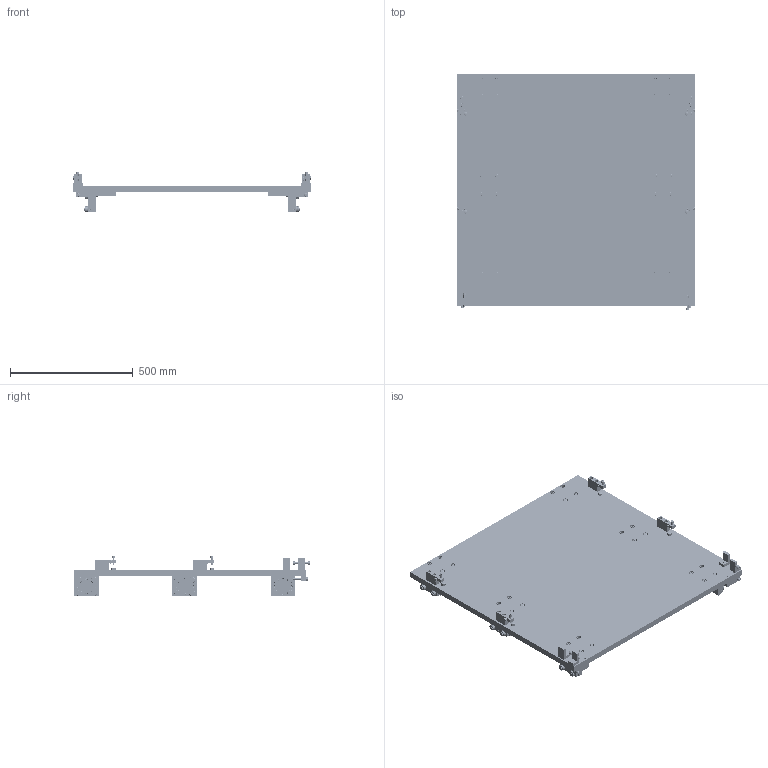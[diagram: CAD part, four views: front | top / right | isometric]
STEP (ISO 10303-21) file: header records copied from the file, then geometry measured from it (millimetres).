
FILE_DESCRIPTION(/* description */ (''),/* implementation_level */ '2;1');
FILE_NAME(/* name */ '2002_Trolley_v5.stp',/* time_stamp */ '2020-08-05T18:11:50+02:00',/* author */ (''),/* organization */ (''),/* preprocessor_version */ 'ST-DEVELOPER v16.7',/* originating_system */ 'SIEMENS PLM Software NX 1892',/* authorisation */ '');
FILE_SCHEMA (('AUTOMOTIVE_DESIGN { 1 0 10303 214 3 1 1 1 }'));
Products named in the file (1): bmas3FC851C1lehg
Bounding box: 972.6 x 959 x 166 mm (x, y, z)
Volume: 25401251.6 mm3; surface area: 2776920 mm2
Topology: 578 solids, 578 shells, 6448 faces, 15153 edges, 9417 vertices
Faces by surface type: cylinder 2592, plane 2206, torus 740, cone 458, sphere 452
Full cylindrical faces by diameter (mm): 1 x4, 5 x40, 6.8 x106, 7.36 x2, 7.76 x78, 8.4 x48, 8.5 x12, 9 x54, 13 x68, 14 x8, 16 x8, 17 x48, 19 x22, 20 x28
Entity records: 226790 total; most frequent: CARTESIAN_POINT 47821, DIRECTION 32530, ORIENTED_EDGE 26348, AXIS2_PLACEMENT_3D 13827, EDGE_CURVE 13174, VERTEX_POINT 9262, EDGE_LOOP 8592, CIRCLE 7378
